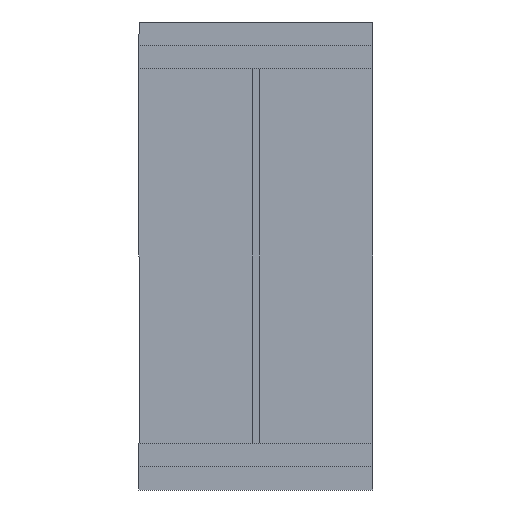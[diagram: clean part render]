
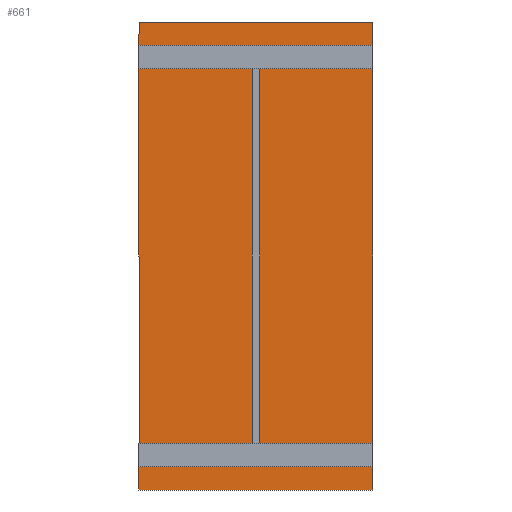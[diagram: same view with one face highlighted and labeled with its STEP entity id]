
A CAD part, front view. The second image highlights one B-rep face of the part: STEP entity #661.
In plain terms, the highlighted planar face has unit normal (0, -1, 0).
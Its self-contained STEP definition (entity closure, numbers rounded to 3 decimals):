
#10 = ORIENTED_EDGE ( 'NONE', *, *, #1044, .F. ) ;
#18 = VECTOR ( 'NONE', #1159, 1000. ) ;
#24 = VERTEX_POINT ( 'NONE', #1720 ) ;
#32 = EDGE_CURVE ( 'NONE', #1212, #912, #1010, .T. ) ;
#37 = DIRECTION ( 'NONE',  ( -1., 0., 0. ) ) ;
#67 = VECTOR ( 'NONE', #1340, 1000. ) ;
#89 = CARTESIAN_POINT ( 'NONE',  ( -490., 345., 0. ) ) ;
#104 = ORIENTED_EDGE ( 'NONE', *, *, #1342, .F. ) ;
#136 = VECTOR ( 'NONE', #333, 1000. ) ;
#137 = PLANE ( 'NONE',  #1709 ) ;
#146 = EDGE_CURVE ( 'NONE', #807, #1079, #331, .T. ) ;
#163 = VECTOR ( 'NONE', #1071, 1000. ) ;
#184 = LINE ( 'NONE', #1255, #1729 ) ;
#193 = CARTESIAN_POINT ( 'NONE',  ( 500., 345., 1900. ) ) ;
#194 = LINE ( 'NONE', #313, #359 ) ;
#226 = CARTESIAN_POINT ( 'NONE',  ( 490., 345., 1800. ) ) ;
#235 = CARTESIAN_POINT ( 'NONE',  ( -490., 345., 1800. ) ) ;
#241 = VECTOR ( 'NONE', #1428, 1000. ) ;
#244 = CARTESIAN_POINT ( 'NONE',  ( 500., 345., 100. ) ) ;
#252 = CARTESIAN_POINT ( 'NONE',  ( 490., 345., 100. ) ) ;
#261 = DIRECTION ( 'NONE',  ( 0., 0., -1. ) ) ;
#270 = VERTEX_POINT ( 'NONE', #700 ) ;
#275 = EDGE_CURVE ( 'NONE', #428, #1212, #1073, .T. ) ;
#300 = ORIENTED_EDGE ( 'NONE', *, *, #325, .F. ) ;
#308 = VERTEX_POINT ( 'NONE', #998 ) ;
#313 = CARTESIAN_POINT ( 'NONE',  ( -490., 345., 1700. ) ) ;
#325 = EDGE_CURVE ( 'NONE', #1086, #917, #184, .T. ) ;
#331 = LINE ( 'NONE', #1149, #794 ) ;
#333 = DIRECTION ( 'NONE',  ( 0., 0., -1. ) ) ;
#341 = CARTESIAN_POINT ( 'NONE',  ( 500., 345., 0. ) ) ;
#350 = CARTESIAN_POINT ( 'NONE',  ( -490., 345., 1800. ) ) ;
#359 = VECTOR ( 'NONE', #1529, 1000. ) ;
#360 = DIRECTION ( 'NONE',  ( 0., 0., -1. ) ) ;
#363 = VECTOR ( 'NONE', #1663, 1000. ) ;
#385 = LINE ( 'NONE', #1448, #1367 ) ;
#404 = EDGE_CURVE ( 'NONE', #308, #1345, #1588, .T. ) ;
#411 = LINE ( 'NONE', #1468, #67 ) ;
#428 = VERTEX_POINT ( 'NONE', #1433 ) ;
#432 = VERTEX_POINT ( 'NONE', #235 ) ;
#446 = ORIENTED_EDGE ( 'NONE', *, *, #146, .F. ) ;
#459 = LINE ( 'NONE', #1555, #1232 ) ;
#475 = CARTESIAN_POINT ( 'NONE',  ( 500., 345., -100. ) ) ;
#478 = EDGE_CURVE ( 'NONE', #1380, #1086, #510, .T. ) ;
#489 = VERTEX_POINT ( 'NONE', #1318 ) ;
#510 = LINE ( 'NONE', #778, #569 ) ;
#521 = ORIENTED_EDGE ( 'NONE', *, *, #1455, .F. ) ;
#532 = ORIENTED_EDGE ( 'NONE', *, *, #1414, .F. ) ;
#543 = ORIENTED_EDGE ( 'NONE', *, *, #1359, .F. ) ;
#552 = ORIENTED_EDGE ( 'NONE', *, *, #404, .F. ) ;
#569 = VECTOR ( 'NONE', #1581, 1000. ) ;
#593 = CARTESIAN_POINT ( 'NONE',  ( 500., 345., 0. ) ) ;
#636 = LINE ( 'NONE', #252, #665 ) ;
#647 = VERTEX_POINT ( 'NONE', #765 ) ;
#651 = EDGE_CURVE ( 'NONE', #1079, #1396, #1163, .T. ) ;
#661 = ADVANCED_FACE ( 'NONE', ( #1061 ), #137, .F. ) ;
#665 = VECTOR ( 'NONE', #261, 1000. ) ;
#693 = ORIENTED_EDGE ( 'NONE', *, *, #275, .F. ) ;
#700 = CARTESIAN_POINT ( 'NONE',  ( -490., 345., 0. ) ) ;
#719 = ORIENTED_EDGE ( 'NONE', *, *, #732, .F. ) ;
#727 = LINE ( 'NONE', #1686, #136 ) ;
#732 = EDGE_CURVE ( 'NONE', #917, #1415, #194, .T. ) ;
#737 = CARTESIAN_POINT ( 'NONE',  ( -500., 345., 1800. ) ) ;
#744 = EDGE_CURVE ( 'NONE', #432, #428, #1250, .T. ) ;
#761 = VECTOR ( 'NONE', #1238, 1000. ) ;
#765 = CARTESIAN_POINT ( 'NONE',  ( 490., 345., 0. ) ) ;
#771 = CARTESIAN_POINT ( 'NONE',  ( 500., 345., 1900. ) ) ;
#773 = VECTOR ( 'NONE', #1016, 1000. ) ;
#778 = CARTESIAN_POINT ( 'NONE',  ( -500., 345., 100. ) ) ;
#780 = LINE ( 'NONE', #475, #363 ) ;
#794 = VECTOR ( 'NONE', #1543, 1000. ) ;
#804 = DIRECTION ( 'NONE',  ( 0., 0., 1. ) ) ;
#807 = VERTEX_POINT ( 'NONE', #1081 ) ;
#810 = ORIENTED_EDGE ( 'NONE', *, *, #651, .F. ) ;
#815 = EDGE_CURVE ( 'NONE', #24, #1453, #411, .T. ) ;
#821 = LINE ( 'NONE', #1479, #163 ) ;
#879 = DIRECTION ( 'NONE',  ( 0., 0., 1. ) ) ;
#902 = VERTEX_POINT ( 'NONE', #593 ) ;
#906 = VECTOR ( 'NONE', #37, 1000. ) ;
#910 = DIRECTION ( 'NONE',  ( 0., 0., 1. ) ) ;
#911 = ORIENTED_EDGE ( 'NONE', *, *, #32, .F. ) ;
#912 = VERTEX_POINT ( 'NONE', #193 ) ;
#915 = DIRECTION ( 'NONE',  ( 0., 0., 1. ) ) ;
#917 = VERTEX_POINT ( 'NONE', #1400 ) ;
#942 = CARTESIAN_POINT ( 'NONE',  ( -500., 345., 100. ) ) ;
#990 = DIRECTION ( 'NONE',  ( -1., 0., 0. ) ) ;
#994 = VECTOR ( 'NONE', #879, 1000. ) ;
#998 = CARTESIAN_POINT ( 'NONE',  ( -500., 345., -100. ) ) ;
#1001 = LINE ( 'NONE', #341, #18 ) ;
#1002 = CARTESIAN_POINT ( 'NONE',  ( -500., 345., 0. ) ) ;
#1010 = LINE ( 'NONE', #771, #241 ) ;
#1016 = DIRECTION ( 'NONE',  ( 0., 0., -1. ) ) ;
#1028 = ORIENTED_EDGE ( 'NONE', *, *, #1053, .F. ) ;
#1036 = EDGE_CURVE ( 'NONE', #270, #1380, #385, .T. ) ;
#1044 = EDGE_CURVE ( 'NONE', #489, #647, #636, .T. ) ;
#1050 = CARTESIAN_POINT ( 'NONE',  ( 500., 345., 1700. ) ) ;
#1053 = EDGE_CURVE ( 'NONE', #902, #1674, #1325, .T. ) ;
#1061 = FACE_OUTER_BOUND ( 'NONE', #1358, .T. ) ;
#1071 = DIRECTION ( 'NONE',  ( 0., 0., -1. ) ) ;
#1073 = LINE ( 'NONE', #1622, #761 ) ;
#1079 = VERTEX_POINT ( 'NONE', #1612 ) ;
#1081 = CARTESIAN_POINT ( 'NONE',  ( 490., 345., 1700. ) ) ;
#1086 = VERTEX_POINT ( 'NONE', #942 ) ;
#1089 = ORIENTED_EDGE ( 'NONE', *, *, #478, .F. ) ;
#1090 = EDGE_CURVE ( 'NONE', #1453, #807, #821, .T. ) ;
#1104 = VECTOR ( 'NONE', #360, 1000. ) ;
#1126 = DIRECTION ( 'NONE',  ( 1., 0., 0. ) ) ;
#1141 = VECTOR ( 'NONE', #1126, 1000. ) ;
#1149 = CARTESIAN_POINT ( 'NONE',  ( 490., 345., 1700. ) ) ;
#1159 = DIRECTION ( 'NONE',  ( 1., 0., 0. ) ) ;
#1163 = LINE ( 'NONE', #1050, #773 ) ;
#1176 = ORIENTED_EDGE ( 'NONE', *, *, #1090, .F. ) ;
#1184 = CARTESIAN_POINT ( 'NONE',  ( -490., 345., 100. ) ) ;
#1186 = VECTOR ( 'NONE', #915, 1000. ) ;
#1209 = DIRECTION ( 'NONE',  ( 0., 1., 0. ) ) ;
#1212 = VERTEX_POINT ( 'NONE', #1516 ) ;
#1232 = VECTOR ( 'NONE', #990, 1000. ) ;
#1238 = DIRECTION ( 'NONE',  ( 0., 0., 1. ) ) ;
#1250 = LINE ( 'NONE', #737, #906 ) ;
#1255 = CARTESIAN_POINT ( 'NONE',  ( -500., 345., 1700. ) ) ;
#1291 = ORIENTED_EDGE ( 'NONE', *, *, #744, .F. ) ;
#1293 = LINE ( 'NONE', #350, #994 ) ;
#1301 = LINE ( 'NONE', #89, #1141 ) ;
#1308 = EDGE_CURVE ( 'NONE', #1415, #432, #1293, .T. ) ;
#1318 = CARTESIAN_POINT ( 'NONE',  ( 490., 345., 100. ) ) ;
#1325 = LINE ( 'NONE', #1559, #1104 ) ;
#1340 = DIRECTION ( 'NONE',  ( -1., 0., 0. ) ) ;
#1342 = EDGE_CURVE ( 'NONE', #912, #24, #727, .T. ) ;
#1345 = VERTEX_POINT ( 'NONE', #1002 ) ;
#1356 = CARTESIAN_POINT ( 'NONE',  ( 0., 345., 0. ) ) ;
#1358 = EDGE_LOOP ( 'NONE', ( #552, #543, #1028, #532, #10, #521, #810, #446, #1176, #1462, #104, #911, #693, #1291, #1403, #719, #300, #1089, #1393, #1634 ) ) ;
#1359 = EDGE_CURVE ( 'NONE', #1674, #308, #780, .T. ) ;
#1367 = VECTOR ( 'NONE', #910, 1000. ) ;
#1380 = VERTEX_POINT ( 'NONE', #1184 ) ;
#1393 = ORIENTED_EDGE ( 'NONE', *, *, #1036, .F. ) ;
#1396 = VERTEX_POINT ( 'NONE', #244 ) ;
#1400 = CARTESIAN_POINT ( 'NONE',  ( -500., 345., 1700. ) ) ;
#1403 = ORIENTED_EDGE ( 'NONE', *, *, #1308, .F. ) ;
#1414 = EDGE_CURVE ( 'NONE', #647, #902, #1001, .T. ) ;
#1415 = VERTEX_POINT ( 'NONE', #1681 ) ;
#1421 = CARTESIAN_POINT ( 'NONE',  ( -500., 345., 0. ) ) ;
#1428 = DIRECTION ( 'NONE',  ( 1., 0., 0. ) ) ;
#1433 = CARTESIAN_POINT ( 'NONE',  ( -500., 345., 1800. ) ) ;
#1442 = CARTESIAN_POINT ( 'NONE',  ( 500., 345., -100. ) ) ;
#1448 = CARTESIAN_POINT ( 'NONE',  ( -490., 345., 100. ) ) ;
#1453 = VERTEX_POINT ( 'NONE', #226 ) ;
#1455 = EDGE_CURVE ( 'NONE', #1396, #489, #459, .T. ) ;
#1462 = ORIENTED_EDGE ( 'NONE', *, *, #815, .F. ) ;
#1468 = CARTESIAN_POINT ( 'NONE',  ( 500., 345., 1800. ) ) ;
#1479 = CARTESIAN_POINT ( 'NONE',  ( 490., 345., 1800. ) ) ;
#1506 = DIRECTION ( 'NONE',  ( 0., 0., 1. ) ) ;
#1516 = CARTESIAN_POINT ( 'NONE',  ( -500., 345., 1900. ) ) ;
#1529 = DIRECTION ( 'NONE',  ( 1., 0., 0. ) ) ;
#1543 = DIRECTION ( 'NONE',  ( 1., 0., 0. ) ) ;
#1555 = CARTESIAN_POINT ( 'NONE',  ( 500., 345., 100. ) ) ;
#1559 = CARTESIAN_POINT ( 'NONE',  ( 500., 345., -100. ) ) ;
#1581 = DIRECTION ( 'NONE',  ( -1., 0., 0. ) ) ;
#1588 = LINE ( 'NONE', #1421, #1186 ) ;
#1612 = CARTESIAN_POINT ( 'NONE',  ( 500., 345., 1700. ) ) ;
#1622 = CARTESIAN_POINT ( 'NONE',  ( -500., 345., 1900. ) ) ;
#1634 = ORIENTED_EDGE ( 'NONE', *, *, #1746, .F. ) ;
#1663 = DIRECTION ( 'NONE',  ( -1., 0., 0. ) ) ;
#1674 = VERTEX_POINT ( 'NONE', #1442 ) ;
#1681 = CARTESIAN_POINT ( 'NONE',  ( -490., 345., 1700. ) ) ;
#1686 = CARTESIAN_POINT ( 'NONE',  ( 500., 345., 1900. ) ) ;
#1709 = AXIS2_PLACEMENT_3D ( 'NONE', #1356, #1209, #804 ) ;
#1720 = CARTESIAN_POINT ( 'NONE',  ( 500., 345., 1800. ) ) ;
#1729 = VECTOR ( 'NONE', #1506, 1000. ) ;
#1746 = EDGE_CURVE ( 'NONE', #1345, #270, #1301, .T. ) ;
